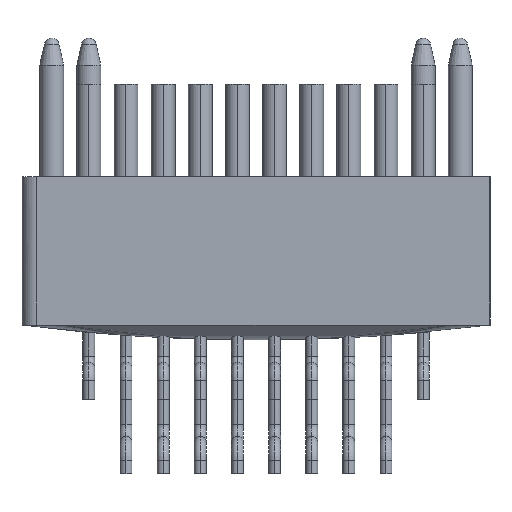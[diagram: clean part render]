
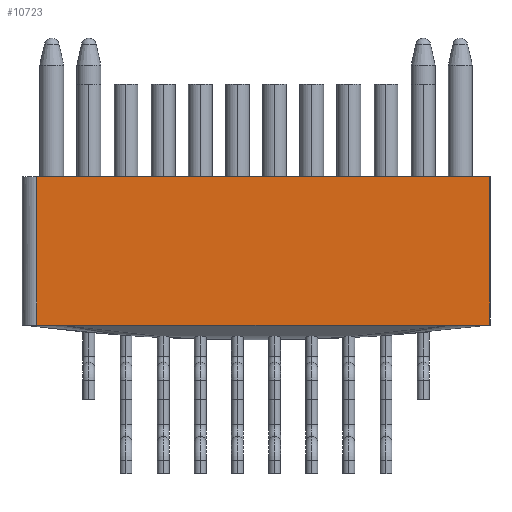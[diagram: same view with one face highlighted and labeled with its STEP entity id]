
A CAD part, front view. The second image highlights one B-rep face of the part: STEP entity #10723.
In plain terms, the highlighted planar face has unit normal (0, -1, 0).
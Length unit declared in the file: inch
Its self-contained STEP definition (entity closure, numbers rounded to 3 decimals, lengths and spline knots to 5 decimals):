
#179 = CARTESIAN_POINT ( 'NONE',  ( -0.1575, -0.035, -0.05 ) ) ;
#1527 = VERTEX_POINT ( 'NONE', #2716 ) ;
#2133 = VERTEX_POINT ( 'NONE', #5556 ) ;
#2157 = LINE ( 'NONE', #14605, #11820 ) ;
#2287 = LINE ( 'NONE', #3842, #14370 ) ;
#2618 = DIRECTION ( 'NONE',  ( -1., 0., 0. ) ) ;
#2716 = CARTESIAN_POINT ( 'NONE',  ( 0.1575, -0.035, -0.05 ) ) ;
#2768 = VERTEX_POINT ( 'NONE', #10445 ) ;
#2998 = VERTEX_POINT ( 'NONE', #8646 ) ;
#3587 = ORIENTED_EDGE ( 'NONE', *, *, #7125, .F. ) ;
#3635 = EDGE_LOOP ( 'NONE', ( #3587, #14172, #6886, #8245, #8529, #15202 ) ) ;
#3842 = CARTESIAN_POINT ( 'NONE',  ( -0.1475, -0.035, -0.05 ) ) ;
#3892 = DIRECTION ( 'NONE',  ( 1., 0., 0. ) ) ;
#4215 = VECTOR ( 'NONE', #3892, 39.37008 ) ;
#4524 = EDGE_CURVE ( 'NONE', #2998, #13613, #2287, .T. ) ;
#4663 = VERTEX_POINT ( 'NONE', #7813 ) ;
#4728 = CARTESIAN_POINT ( 'NONE',  ( 0.1575, -0.035, -0.05 ) ) ;
#5046 = DIRECTION ( 'NONE',  ( -1., 0., 0. ) ) ;
#5110 = LINE ( 'NONE', #4728, #7909 ) ;
#5461 = LINE ( 'NONE', #179, #11860 ) ;
#5482 = PLANE ( 'NONE',  #10323 ) ;
#5556 = CARTESIAN_POINT ( 'NONE',  ( 0.1575, -0.035, 0.05 ) ) ;
#6140 = EDGE_CURVE ( 'NONE', #2998, #2133, #7381, .T. ) ;
#6364 = LINE ( 'NONE', #9313, #15575 ) ;
#6699 = DIRECTION ( 'NONE',  ( 0., 0., -1. ) ) ;
#6886 = ORIENTED_EDGE ( 'NONE', *, *, #6140, .F. ) ;
#6977 = FACE_OUTER_BOUND ( 'NONE', #3635, .T. ) ;
#7125 = EDGE_CURVE ( 'NONE', #1527, #4663, #5461, .T. ) ;
#7381 = LINE ( 'NONE', #8689, #4215 ) ;
#7813 = CARTESIAN_POINT ( 'NONE',  ( 0.13061, -0.035, -0.05 ) ) ;
#7877 = CARTESIAN_POINT ( 'NONE',  ( -0.1575, -0.035, -0.05 ) ) ;
#7909 = VECTOR ( 'NONE', #14322, 39.37008 ) ;
#7941 = EDGE_CURVE ( 'NONE', #2768, #13613, #6364, .T. ) ;
#8245 = ORIENTED_EDGE ( 'NONE', *, *, #4524, .T. ) ;
#8529 = ORIENTED_EDGE ( 'NONE', *, *, #7941, .F. ) ;
#8646 = CARTESIAN_POINT ( 'NONE',  ( -0.1475, -0.035, 0.05 ) ) ;
#8689 = CARTESIAN_POINT ( 'NONE',  ( -0.1575, -0.035, 0.05 ) ) ;
#9313 = CARTESIAN_POINT ( 'NONE',  ( -0.1575, -0.035, -0.05 ) ) ;
#9365 = DIRECTION ( 'NONE',  ( -1., 0., 0. ) ) ;
#10323 = AXIS2_PLACEMENT_3D ( 'NONE', #7877, #13935, #6699 ) ;
#10445 = CARTESIAN_POINT ( 'NONE',  ( -0.13061, -0.035, -0.05 ) ) ;
#10723 = ADVANCED_FACE ( 'NONE', ( #6977 ), #5482, .T. ) ;
#11466 = EDGE_CURVE ( 'NONE', #1527, #2133, #5110, .T. ) ;
#11664 = CARTESIAN_POINT ( 'NONE',  ( -0.1475, -0.035, -0.05 ) ) ;
#11820 = VECTOR ( 'NONE', #5046, 39.37008 ) ;
#11860 = VECTOR ( 'NONE', #2618, 39.37008 ) ;
#12267 = DIRECTION ( 'NONE',  ( 0., 0., -1. ) ) ;
#13471 = EDGE_CURVE ( 'NONE', #4663, #2768, #2157, .T. ) ;
#13613 = VERTEX_POINT ( 'NONE', #11664 ) ;
#13935 = DIRECTION ( 'NONE',  ( 0., -1., 0. ) ) ;
#14172 = ORIENTED_EDGE ( 'NONE', *, *, #11466, .T. ) ;
#14322 = DIRECTION ( 'NONE',  ( 0., 0., 1. ) ) ;
#14370 = VECTOR ( 'NONE', #12267, 39.37008 ) ;
#14605 = CARTESIAN_POINT ( 'NONE',  ( -0.1575, -0.035, -0.05 ) ) ;
#15202 = ORIENTED_EDGE ( 'NONE', *, *, #13471, .F. ) ;
#15575 = VECTOR ( 'NONE', #9365, 39.37008 ) ;
